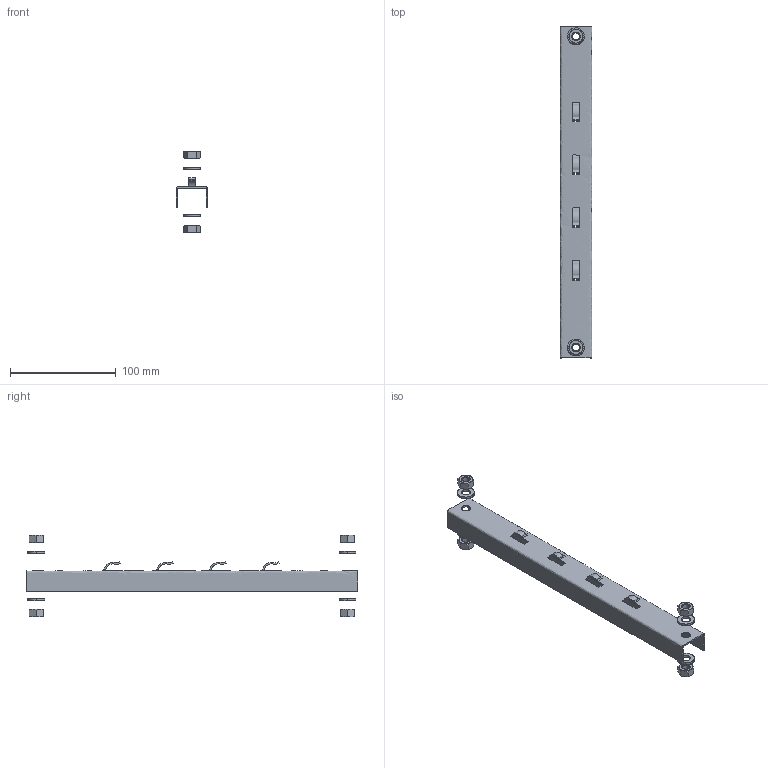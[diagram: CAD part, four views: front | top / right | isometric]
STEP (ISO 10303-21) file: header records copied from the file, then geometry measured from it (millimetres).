
FILE_DESCRIPTION(/* description */ (''),/* implementation_level */ '2;1');
FILE_NAME(/* name */ 'PZM250',/* time_stamp */ '2012-11-29T22:31:30+01:00',/* author */ (''),/* organization */ (''),/* preprocessor_version */ 'ST-DEVELOPER v10',/* originating_system */ '',/* authorisation */ '');
FILE_SCHEMA (('AUTOMOTIVE_DESIGN_CC2'));
Length unit declared in the file: millimetre
Products named in the file (1): 1
Bounding box: 30 x 314 x 77.15 mm (x, y, z)
Surface area: 47705.8 mm2 (no closed solid volume)
Topology: 0 solids, 145 shells, 175 faces, 754 edges, 698 vertices
Faces by surface type: bspline 122, plane 53
Entity records: 13316 total; most frequent: CARTESIAN_POINT 8434, ORIENTED_EDGE 810, EDGE_CURVE 750, VERTEX_POINT 690, B_SPLINE_CURVE_WITH_KNOTS 368, EDGE_LOOP 203, ADVANCED_FACE 175, FACE_OUTER_BOUND 175
